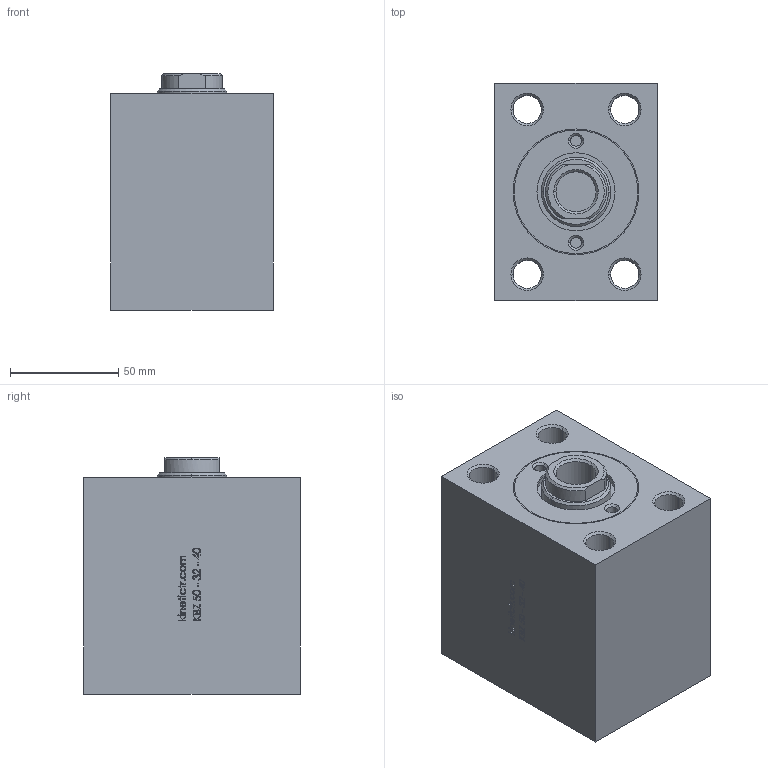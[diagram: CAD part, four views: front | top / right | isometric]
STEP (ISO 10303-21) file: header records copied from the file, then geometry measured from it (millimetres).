
FILE_DESCRIPTION (( 'STEP AP214' ), '1' );
FILE_NAME ('KBZ_02_50_32_35.STEP', '2018-12-29T15:43:47', ( '' ), ( '' ), 'SwSTEP 2.0', 'SolidWorks 2018', '' );
FILE_SCHEMA (( 'AUTOMOTIVE_DESIGN' ));
Length unit declared in the file: millimetre
Products named in the file (5): 50-32-40-GOVDE; KBZ_50-32_ON_KAPAK; 32_M尳; KBZ_02_50_32_35; KBZ_50_PÝSTON
Assembly tree (4 placements, depth 2):
  KBZ_02_50_32_35
    50-32-40-GOVDE
    32_M尳
    KBZ_50_PÝSTON
    KBZ_50-32_ON_KAPAK
Bounding box: 75 x 100 x 109 mm (x, y, z)
Volume: 620291.9 mm3; surface area: 116345.5 mm2
Topology: 4 solids, 4 shells, 480 faces, 1171 edges, 756 vertices
Faces by surface type: plane 210, bspline 124, cone 73, cylinder 73
Entity records: 21078 total; most frequent: CARTESIAN_POINT 10090, ORIENTED_EDGE 2342, DIRECTION 1853, EDGE_CURVE 1171, VERTEX_POINT 756, LINE 703, VECTOR 703, AXIS2_PLACEMENT_3D 575
